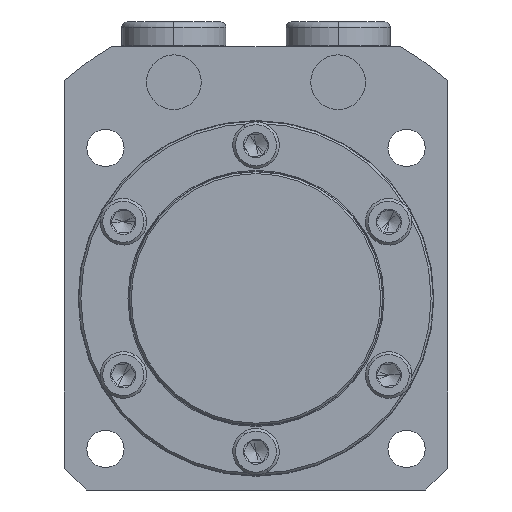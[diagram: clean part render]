
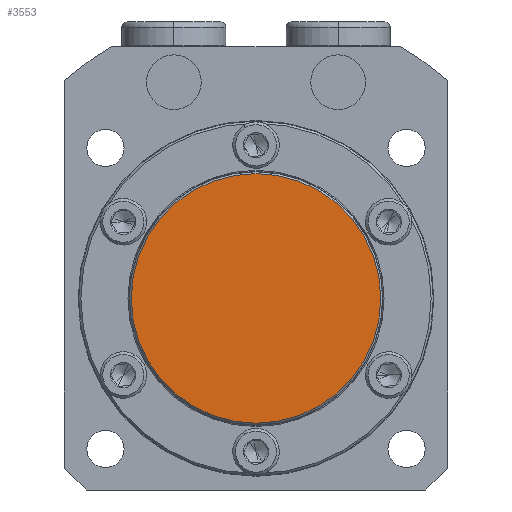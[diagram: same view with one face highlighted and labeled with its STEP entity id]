
A CAD part, front view. The second image highlights one B-rep face of the part: STEP entity #3553.
In plain terms, the highlighted planar face has unit normal (0, -1, 0).
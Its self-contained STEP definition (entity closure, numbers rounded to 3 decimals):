
#293 = EDGE_CURVE ( 'NONE', #878, #1659, #4971, .T. ) ;
#878 = VERTEX_POINT ( 'NONE', #3882 ) ;
#1074 = CARTESIAN_POINT ( 'NONE',  ( 0., -10.5, 0. ) ) ;
#1075 = DIRECTION ( 'NONE',  ( 0., -1., 0. ) ) ;
#1076 = DIRECTION ( 'NONE',  ( 0., 0., -1. ) ) ;
#1621 = EDGE_LOOP ( 'NONE', ( #2486, #2487 ) ) ;
#1659 = VERTEX_POINT ( 'NONE', #3895 ) ;
#1976 = CARTESIAN_POINT ( 'NONE',  ( 0., -10.5, 0. ) ) ;
#1978 = FACE_OUTER_BOUND ( 'NONE', #1621, .T. ) ;
#1979 = PLANE ( 'NONE',  #2814 ) ;
#1982 = DIRECTION ( 'NONE',  ( 0., -1., 0. ) ) ;
#1983 = DIRECTION ( 'NONE',  ( 0., 0., -1. ) ) ;
#2486 = ORIENTED_EDGE ( 'NONE', *, *, #3656, .T. ) ;
#2487 = ORIENTED_EDGE ( 'NONE', *, *, #293, .T. ) ;
#2814 = AXIS2_PLACEMENT_3D ( 'NONE', #1976, #1982, #1983 ) ;
#3323 = CIRCLE ( 'NONE', #3324, 22.8 ) ;
#3324 = AXIS2_PLACEMENT_3D ( 'NONE', #5248, #5249, #5250 ) ;
#3553 = ADVANCED_FACE ( 'NONE', ( #1978 ), #1979, .T. ) ;
#3656 = EDGE_CURVE ( 'NONE', #1659, #878, #3323, .T. ) ;
#3882 = CARTESIAN_POINT ( 'NONE',  ( 0., -10.5, -22.8 ) ) ;
#3895 = CARTESIAN_POINT ( 'NONE',  ( 0., -10.5, 22.8 ) ) ;
#4971 = CIRCLE ( 'NONE', #4976, 22.8 ) ;
#4976 = AXIS2_PLACEMENT_3D ( 'NONE', #1074, #1075, #1076 ) ;
#5248 = CARTESIAN_POINT ( 'NONE',  ( 0., -10.5, 0. ) ) ;
#5249 = DIRECTION ( 'NONE',  ( 0., -1., 0. ) ) ;
#5250 = DIRECTION ( 'NONE',  ( 0., 0., -1. ) ) ;
